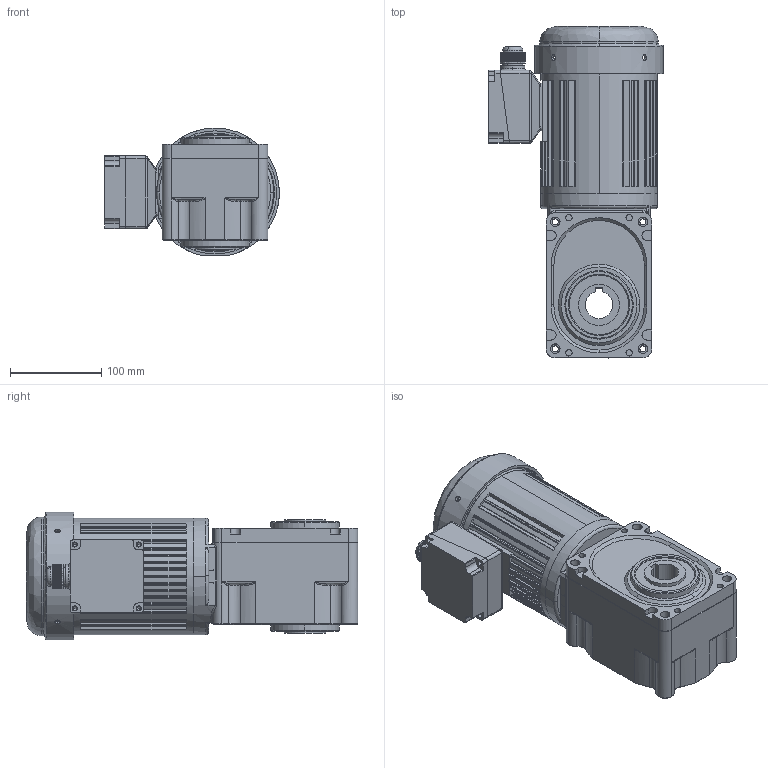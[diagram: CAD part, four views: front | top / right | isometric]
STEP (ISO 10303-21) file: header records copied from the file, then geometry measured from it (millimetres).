
FILE_DESCRIPTION (( 'STEP AP203' ), '1' );
FILE_NAME ('ZDF3-30H5K-60K-400-S3.STEP', '2020-05-05T06:46:28', ( '' ), ( '' ), 'SwSTEP 2.0', 'SolidWorks 2019', '' );
FILE_SCHEMA (( 'CONFIG_CONTROL_DESIGN' ));
Length unit declared in the file: millimetre
Products named in the file (3): ZDF3-30H5K-60K-400-S3(B); ZDF3-30H5K-60K-400-S3; 嫖萇儂
Assembly tree (2 placements, depth 2):
  ZDF3-30H5K-60K-400-S3
    ZDF3-30H5K-60K-400-S3(B)
    嫖萇儂
Bounding box: 191.48 x 363.5 x 140 mm (x, y, z)
Volume: 1945664.5 mm3; surface area: 465258.7 mm2
Topology: 1 solids, 8 shells, 1792 faces, 4902 edges, 3183 vertices
Faces by surface type: cylinder 1055, plane 530, cone 75, bspline 66, torus 50, sphere 16
Entity records: 65211 total; most frequent: CARTESIAN_POINT 18541, DIRECTION 9978, ORIENTED_EDGE 9716, EDGE_CURVE 4878, AXIS2_PLACEMENT_3D 3949, VERTEX_POINT 3183, CIRCLE 2217, EDGE_LOOP 2175
